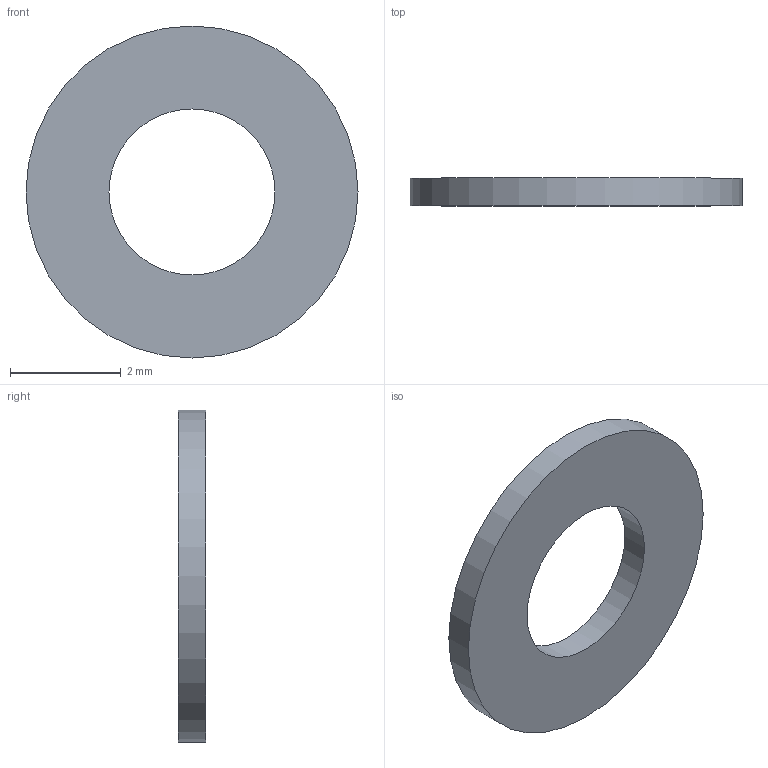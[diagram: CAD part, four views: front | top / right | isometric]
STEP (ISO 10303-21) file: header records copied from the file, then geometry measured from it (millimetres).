
FILE_DESCRIPTION(/* description */ ('','CAx-IF Rec.Pracs.---Representation and Presentation of Product Manufacturing Information (PMI)---4.0---2014-10-13'),/* implementation_level */ '2;1');
FILE_NAME(/* name */ 'Precision Shim - 3mm - 0.5mm.step',/* time_stamp */ '2024-11-28T00:15:17+02:00',/* author */ (''),/* organization */ (''),/* preprocessor_version */ 'ST-DEVELOPER v20',/* originating_system */ 'Autodesk Translation Framework v13.20.0.188',/* authorisation */ '');
FILE_SCHEMA (('AP242_MANAGED_MODEL_BASED_3D_ENGINEERING_MIM_LF { 1 0 10303 442 1 1 4 }'));
Length unit declared in the file: millimetre
Products named in the file (1): Precision Shim - 3mm - 0.5mm
Bounding box: 6 x 0.5 x 6 mm (x, y, z)
Volume: 10.6 mm3; surface area: 56.5 mm2
Topology: 1 solids, 1 shells, 4 faces, 6 edges, 4 vertices
Faces by surface type: cylinder 2, plane 2
Full cylindrical faces by diameter (mm): 3 x1, 6 x1
Entity records: 131 total; most frequent: DIRECTION 20, CARTESIAN_POINT 15, ORIENTED_EDGE 12, AXIS2_PLACEMENT_3D 9, EDGE_LOOP 6, EDGE_CURVE 6, FACE_OUTER_BOUND 4, CIRCLE 4
